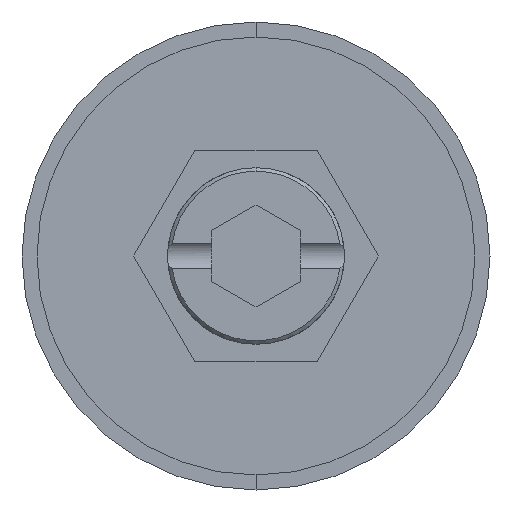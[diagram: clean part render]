
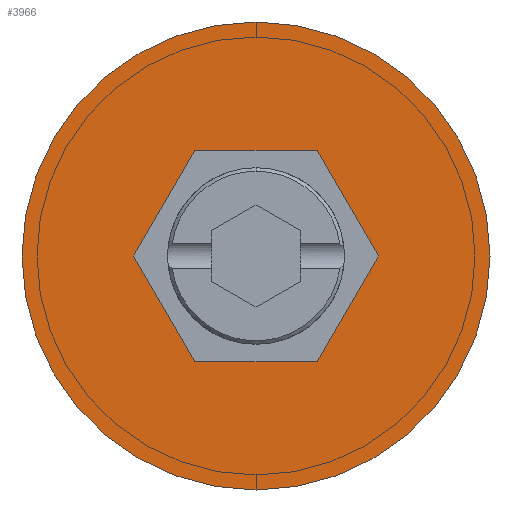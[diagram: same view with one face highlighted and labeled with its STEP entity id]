
A CAD part, front view. The second image highlights one B-rep face of the part: STEP entity #3966.
In plain terms, the highlighted planar face has unit normal (0, -1, 0).
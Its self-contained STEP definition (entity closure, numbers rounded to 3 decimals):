
#67 = CARTESIAN_POINT ( 'NONE',  ( 6.928, 0., 0. ) ) ;
#87 = CARTESIAN_POINT ( 'NONE',  ( 3.464, 0., -6. ) ) ;
#94 = ORIENTED_EDGE ( 'NONE', *, *, #2796, .F. ) ;
#209 = EDGE_LOOP ( 'NONE', ( #2116, #3639, #3432, #2485, #1624, #94 ) ) ;
#224 = EDGE_CURVE ( 'NONE', #2367, #677, #475, .T. ) ;
#232 = ORIENTED_EDGE ( 'NONE', *, *, #4076, .T. ) ;
#290 = CARTESIAN_POINT ( 'NONE',  ( 3.464, 0., 6. ) ) ;
#305 = CARTESIAN_POINT ( 'NONE',  ( -3.464, 0., -6. ) ) ;
#319 = CARTESIAN_POINT ( 'NONE',  ( -3.464, 0., 6. ) ) ;
#327 = CARTESIAN_POINT ( 'NONE',  ( 0., 0., 13.25 ) ) ;
#330 = PLANE ( 'NONE',  #1358 ) ;
#475 = LINE ( 'NONE', #2100, #2917 ) ;
#625 = DIRECTION ( 'NONE',  ( 1., 0., 0. ) ) ;
#649 = EDGE_CURVE ( 'NONE', #2538, #1158, #3053, .T. ) ;
#668 = CARTESIAN_POINT ( 'NONE',  ( 0., 0., -13.25 ) ) ;
#677 = VERTEX_POINT ( 'NONE', #3778 ) ;
#827 = CIRCLE ( 'NONE', #1908, 13.25 ) ;
#951 = DIRECTION ( 'NONE',  ( -0.5, 0., -0.866 ) ) ;
#977 = CARTESIAN_POINT ( 'NONE',  ( -3.464, 0., 6. ) ) ;
#978 = CARTESIAN_POINT ( 'NONE',  ( 0., 0., 0. ) ) ;
#981 = VECTOR ( 'NONE', #951, 1000. ) ;
#1004 = CARTESIAN_POINT ( 'NONE',  ( 0., 0., 0. ) ) ;
#1100 = LINE ( 'NONE', #305, #2697 ) ;
#1147 = DIRECTION ( 'NONE',  ( -0.5, 0., 0.866 ) ) ;
#1158 = VERTEX_POINT ( 'NONE', #1746 ) ;
#1275 = DIRECTION ( 'NONE',  ( 0., 0., -1. ) ) ;
#1285 = LINE ( 'NONE', #290, #3002 ) ;
#1296 = DIRECTION ( 'NONE',  ( 0., 0., -1. ) ) ;
#1317 = DIRECTION ( 'NONE',  ( 0., 0., -1. ) ) ;
#1358 = AXIS2_PLACEMENT_3D ( 'NONE', #2869, #3202, #1275 ) ;
#1373 = VECTOR ( 'NONE', #3920, 1000. ) ;
#1407 = EDGE_CURVE ( 'NONE', #677, #3041, #1285, .T. ) ;
#1435 = CIRCLE ( 'NONE', #2219, 13.25 ) ;
#1558 = EDGE_LOOP ( 'NONE', ( #2070, #232 ) ) ;
#1587 = CARTESIAN_POINT ( 'NONE',  ( 3.464, 0., -6. ) ) ;
#1624 = ORIENTED_EDGE ( 'NONE', *, *, #224, .F. ) ;
#1739 = FACE_BOUND ( 'NONE', #209, .T. ) ;
#1746 = CARTESIAN_POINT ( 'NONE',  ( -3.464, 0., -6. ) ) ;
#1819 = LINE ( 'NONE', #319, #981 ) ;
#1908 = AXIS2_PLACEMENT_3D ( 'NONE', #978, #3224, #1296 ) ;
#2070 = ORIENTED_EDGE ( 'NONE', *, *, #2829, .T. ) ;
#2100 = CARTESIAN_POINT ( 'NONE',  ( 6.928, 0., 0. ) ) ;
#2116 = ORIENTED_EDGE ( 'NONE', *, *, #3877, .F. ) ;
#2180 = VERTEX_POINT ( 'NONE', #327 ) ;
#2204 = VECTOR ( 'NONE', #2604, 1000. ) ;
#2219 = AXIS2_PLACEMENT_3D ( 'NONE', #1004, #3249, #1317 ) ;
#2367 = VERTEX_POINT ( 'NONE', #67 ) ;
#2424 = LINE ( 'NONE', #87, #1373 ) ;
#2485 = ORIENTED_EDGE ( 'NONE', *, *, #1407, .F. ) ;
#2497 = CARTESIAN_POINT ( 'NONE',  ( -6.928, 0., 0. ) ) ;
#2538 = VERTEX_POINT ( 'NONE', #2852 ) ;
#2604 = DIRECTION ( 'NONE',  ( 0.5, 0., -0.866 ) ) ;
#2697 = VECTOR ( 'NONE', #625, 1000. ) ;
#2796 = EDGE_CURVE ( 'NONE', #3000, #2367, #2424, .T. ) ;
#2829 = EDGE_CURVE ( 'NONE', #3024, #2180, #827, .T. ) ;
#2852 = CARTESIAN_POINT ( 'NONE',  ( -6.928, 0., 0. ) ) ;
#2869 = CARTESIAN_POINT ( 'NONE',  ( 0., 0., 0. ) ) ;
#2917 = VECTOR ( 'NONE', #1147, 1000. ) ;
#3000 = VERTEX_POINT ( 'NONE', #1587 ) ;
#3002 = VECTOR ( 'NONE', #4128, 1000. ) ;
#3005 = EDGE_CURVE ( 'NONE', #3041, #2538, #1819, .T. ) ;
#3024 = VERTEX_POINT ( 'NONE', #668 ) ;
#3041 = VERTEX_POINT ( 'NONE', #977 ) ;
#3053 = LINE ( 'NONE', #2497, #2204 ) ;
#3202 = DIRECTION ( 'NONE',  ( 0., -1., 0. ) ) ;
#3224 = DIRECTION ( 'NONE',  ( 0., -1., 0. ) ) ;
#3249 = DIRECTION ( 'NONE',  ( 0., -1., 0. ) ) ;
#3432 = ORIENTED_EDGE ( 'NONE', *, *, #3005, .F. ) ;
#3639 = ORIENTED_EDGE ( 'NONE', *, *, #649, .F. ) ;
#3778 = CARTESIAN_POINT ( 'NONE',  ( 3.464, 0., 6. ) ) ;
#3877 = EDGE_CURVE ( 'NONE', #1158, #3000, #1100, .T. ) ;
#3920 = DIRECTION ( 'NONE',  ( 0.5, 0., 0.866 ) ) ;
#3966 = ADVANCED_FACE ( 'NONE', ( #1739, #4105 ), #330, .T. ) ;
#4076 = EDGE_CURVE ( 'NONE', #2180, #3024, #1435, .T. ) ;
#4105 = FACE_OUTER_BOUND ( 'NONE', #1558, .T. ) ;
#4128 = DIRECTION ( 'NONE',  ( -1., 0., 0. ) ) ;
